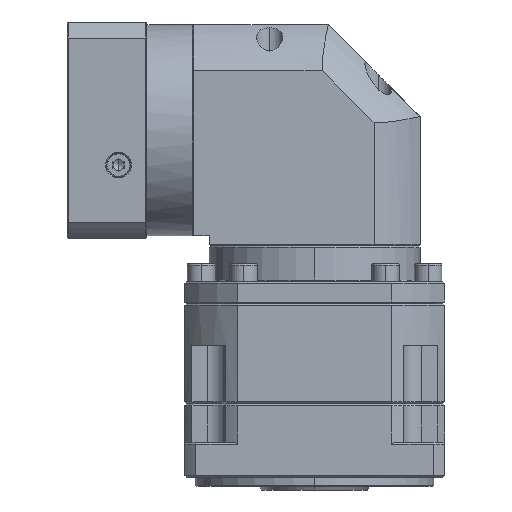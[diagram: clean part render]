
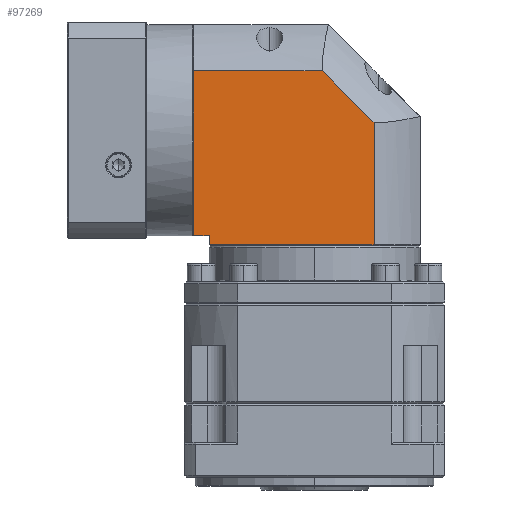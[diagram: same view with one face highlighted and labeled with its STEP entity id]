
A CAD part, left-side view. The second image highlights one B-rep face of the part: STEP entity #97269.
In plain terms, the highlighted planar face has unit normal (-1, 0, 0).
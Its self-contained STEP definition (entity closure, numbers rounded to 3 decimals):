
#267 = ORIENTED_EDGE ( 'NONE', *, *, #52050, .F. ) ;
#7597 = ORIENTED_EDGE ( 'NONE', *, *, #109595, .F. ) ;
#9342 = VECTOR ( 'NONE', #122651, 1000. ) ;
#10986 = LINE ( 'NONE', #130465, #94146 ) ;
#11300 = VERTEX_POINT ( 'NONE', #104952 ) ;
#12425 = CARTESIAN_POINT ( 'NONE',  ( -228.358, 13.002, -11.935 ) ) ;
#17426 = CARTESIAN_POINT ( 'NONE',  ( -228.358, 136.402, 89.464 ) ) ;
#19742 = DIRECTION ( 'NONE',  ( 0., 0., -1. ) ) ;
#20033 = FACE_OUTER_BOUND ( 'NONE', #68514, .T. ) ;
#21216 = AXIS2_PLACEMENT_3D ( 'NONE', #12425, #67449, #77017 ) ;
#23897 = LINE ( 'NONE', #115919, #63012 ) ;
#27248 = CARTESIAN_POINT ( 'NONE',  ( -228.358, 136.402, -0.435 ) ) ;
#28744 = LINE ( 'NONE', #138454, #98343 ) ;
#31484 = LINE ( 'NONE', #114842, #77325 ) ;
#32943 = CARTESIAN_POINT ( 'NONE',  ( -228.358, 13.002, 89.464 ) ) ;
#40487 = ORIENTED_EDGE ( 'NONE', *, *, #55360, .T. ) ;
#46974 = CARTESIAN_POINT ( 'NONE',  ( -228.358, 128.002, 114.565 ) ) ;
#50682 = DIRECTION ( 'NONE',  ( 0., 1., 0. ) ) ;
#51686 = VERTEX_POINT ( 'NONE', #57279 ) ;
#52050 = EDGE_CURVE ( 'NONE', #111771, #51686, #61771, .T. ) ;
#55360 = EDGE_CURVE ( 'NONE', #70077, #59353, #10986, .T. ) ;
#57279 = CARTESIAN_POINT ( 'NONE',  ( -228.358, 66.441, 89.464 ) ) ;
#59353 = VERTEX_POINT ( 'NONE', #136463 ) ;
#60327 = LINE ( 'NONE', #68060, #9342 ) ;
#61771 = LINE ( 'NONE', #32943, #134568 ) ;
#63012 = VECTOR ( 'NONE', #137262, 1000. ) ;
#63288 = EDGE_CURVE ( 'NONE', #59353, #11300, #76009, .T. ) ;
#64948 = CARTESIAN_POINT ( 'NONE',  ( -228.358, 38.102, -5.435 ) ) ;
#65439 = DIRECTION ( 'NONE',  ( 0., -1., 0. ) ) ;
#67431 = ORIENTED_EDGE ( 'NONE', *, *, #114588, .F. ) ;
#67449 = DIRECTION ( 'NONE',  ( 1., 0., 0. ) ) ;
#68060 = CARTESIAN_POINT ( 'NONE',  ( -228.358, 66.441, 89.464 ) ) ;
#68514 = EDGE_LOOP ( 'NONE', ( #67431, #106492, #267, #74895, #40487, #103801, #7597 ) ) ;
#70077 = VERTEX_POINT ( 'NONE', #27248 ) ;
#70846 = VECTOR ( 'NONE', #122475, 1000. ) ;
#74895 = ORIENTED_EDGE ( 'NONE', *, *, #81764, .F. ) ;
#76009 = LINE ( 'NONE', #46974, #70846 ) ;
#76186 = DIRECTION ( 'NONE',  ( 0., -1., 0. ) ) ;
#77017 = DIRECTION ( 'NONE',  ( 0., -1., 0. ) ) ;
#77325 = VECTOR ( 'NONE', #50682, 1000. ) ;
#81764 = EDGE_CURVE ( 'NONE', #70077, #111771, #23897, .T. ) ;
#88306 = PLANE ( 'NONE',  #21216 ) ;
#94146 = VECTOR ( 'NONE', #65439, 1000. ) ;
#94990 = CARTESIAN_POINT ( 'NONE',  ( -228.358, 38.102, 61.126 ) ) ;
#97269 = ADVANCED_FACE ( 'NONE', ( #20033 ), #88306, .F. ) ;
#98343 = VECTOR ( 'NONE', #19742, 1000. ) ;
#102246 = VERTEX_POINT ( 'NONE', #64948 ) ;
#103801 = ORIENTED_EDGE ( 'NONE', *, *, #63288, .T. ) ;
#104952 = CARTESIAN_POINT ( 'NONE',  ( -228.358, 128.002, -5.435 ) ) ;
#106492 = ORIENTED_EDGE ( 'NONE', *, *, #135009, .F. ) ;
#109595 = EDGE_CURVE ( 'NONE', #102246, #11300, #31484, .T. ) ;
#111771 = VERTEX_POINT ( 'NONE', #17426 ) ;
#114588 = EDGE_CURVE ( 'NONE', #118788, #102246, #28744, .T. ) ;
#114842 = CARTESIAN_POINT ( 'NONE',  ( -228.358, 13.002, -5.435 ) ) ;
#115919 = CARTESIAN_POINT ( 'NONE',  ( -228.358, 136.402, -11.935 ) ) ;
#118788 = VERTEX_POINT ( 'NONE', #94990 ) ;
#122475 = DIRECTION ( 'NONE',  ( 0., 0., -1. ) ) ;
#122651 = DIRECTION ( 'NONE',  ( 0., -0.707, -0.707 ) ) ;
#130465 = CARTESIAN_POINT ( 'NONE',  ( -228.358, 128.002, -0.435 ) ) ;
#134568 = VECTOR ( 'NONE', #76186, 1000. ) ;
#135009 = EDGE_CURVE ( 'NONE', #51686, #118788, #60327, .T. ) ;
#136463 = CARTESIAN_POINT ( 'NONE',  ( -228.358, 128.002, -0.435 ) ) ;
#137262 = DIRECTION ( 'NONE',  ( 0., 0., 1. ) ) ;
#138454 = CARTESIAN_POINT ( 'NONE',  ( -228.358, 38.102, -11.935 ) ) ;
